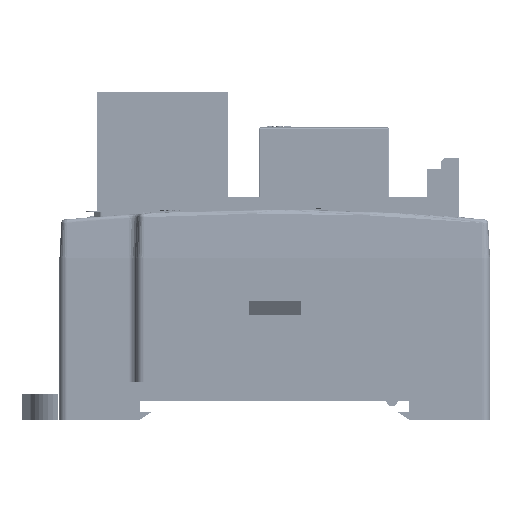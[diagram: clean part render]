
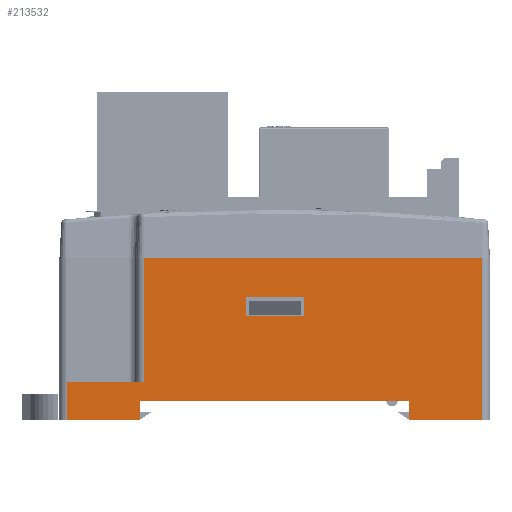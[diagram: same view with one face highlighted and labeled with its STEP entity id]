
A CAD part, front view. The second image highlights one B-rep face of the part: STEP entity #213532.
In plain terms, the highlighted planar face has unit normal (0, -1, 0).
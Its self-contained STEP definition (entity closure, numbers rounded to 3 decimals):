
#14111=DIRECTION('',(0.,0.,-1.));
#14112=VECTOR('',#14111,21.);
#14113=CARTESIAN_POINT('',(27.,-85.,0.));
#14114=LINE('',#14113,#14112);
#14171=DIRECTION('',(0.,0.,-1.));
#14172=VECTOR('',#14171,2.5);
#14173=CARTESIAN_POINT('',(17.5,-85.,-18.5));
#14174=LINE('',#14173,#14172);
#14766=DIRECTION('',(0.,0.,1.));
#14767=VECTOR('',#14766,16.1);
#14768=CARTESIAN_POINT('',(-17.,-85.,-16.1));
#14769=LINE('',#14768,#14767);
#14774=DIRECTION('',(1.,0.,0.));
#14775=VECTOR('',#14774,9.5);
#14776=CARTESIAN_POINT('',(17.5,-85.,-21.));
#14777=LINE('',#14776,#14775);
#14778=DIRECTION('',(1.,0.,0.));
#14779=VECTOR('',#14778,9.5);
#14780=CARTESIAN_POINT('',(-27.,-85.,-21.));
#14781=LINE('',#14780,#14779);
#14786=DIRECTION('',(0.,0.,1.));
#14787=VECTOR('',#14786,2.5);
#14788=CARTESIAN_POINT('',(-3.75,-85.,-7.5));
#14789=LINE('',#14788,#14787);
#14858=DIRECTION('',(1.,0.,0.));
#14859=VECTOR('',#14858,7.5);
#14860=CARTESIAN_POINT('',(-3.75,-85.,-5.));
#14861=LINE('',#14860,#14859);
#15007=DIRECTION('',(0.,0.,-1.));
#15008=VECTOR('',#15007,2.5);
#15009=CARTESIAN_POINT('',(3.75,-85.,-5.));
#15010=LINE('',#15009,#15008);
#15015=DIRECTION('',(-1.,0.,0.));
#15016=VECTOR('',#15015,7.5);
#15017=CARTESIAN_POINT('',(3.75,-85.,-7.5));
#15018=LINE('',#15017,#15016);
#15023=DIRECTION('',(-1.,0.,0.));
#15024=VECTOR('',#15023,35.);
#15025=CARTESIAN_POINT('',(17.5,-85.,-18.5));
#15026=LINE('',#15025,#15024);
#15031=DIRECTION('',(0.,0.,1.));
#15032=VECTOR('',#15031,2.5);
#15033=CARTESIAN_POINT('',(-17.5,-85.,-21.));
#15034=LINE('',#15033,#15032);
#81909=DIRECTION('',(1.,0.,0.));
#81910=VECTOR('',#81909,10.);
#81911=CARTESIAN_POINT('',(-27.,-85.,-16.1));
#81912=LINE('',#81911,#81910);
#81946=DIRECTION('',(0.,0.,1.));
#81947=VECTOR('',#81946,4.9);
#81948=CARTESIAN_POINT('',(-27.,-85.,-21.));
#81949=LINE('',#81948,#81947);
#82039=DIRECTION('',(1.,0.,0.));
#82040=VECTOR('',#82039,44.);
#82041=CARTESIAN_POINT('',(-17.,-85.,0.));
#82042=LINE('',#82041,#82040);
#187100=CARTESIAN_POINT('',(-17.5,-85.,-21.));
#187101=VERTEX_POINT('',#187100);
#187102=CARTESIAN_POINT('',(-27.,-85.,-21.));
#187103=VERTEX_POINT('',#187102);
#187130=CARTESIAN_POINT('',(27.,-85.,-21.));
#187131=VERTEX_POINT('',#187130);
#187132=CARTESIAN_POINT('',(17.5,-85.,-21.));
#187133=VERTEX_POINT('',#187132);
#187202=CARTESIAN_POINT('',(17.5,-85.,-18.5));
#187203=CARTESIAN_POINT('',(-17.5,-85.,-18.5));
#187204=VERTEX_POINT('',#187202);
#187205=VERTEX_POINT('',#187203);
#187206=CARTESIAN_POINT('',(-27.,-85.,-16.1));
#187207=VERTEX_POINT('',#187206);
#187208=CARTESIAN_POINT('',(-17.,-85.,-16.1));
#187209=VERTEX_POINT('',#187208);
#187210=CARTESIAN_POINT('',(-3.75,-85.,-7.5));
#187211=CARTESIAN_POINT('',(-3.75,-85.,-5.));
#187212=VERTEX_POINT('',#187210);
#187213=VERTEX_POINT('',#187211);
#187214=CARTESIAN_POINT('',(3.75,-85.,-7.5));
#187215=VERTEX_POINT('',#187214);
#187216=CARTESIAN_POINT('',(3.75,-85.,-5.));
#187217=VERTEX_POINT('',#187216);
#194425=CARTESIAN_POINT('',(-17.,-85.,0.));
#194426=CARTESIAN_POINT('',(27.,-85.,0.));
#194427=VERTEX_POINT('',#194425);
#194428=VERTEX_POINT('',#194426);
#213499=CARTESIAN_POINT('',(0.,-85.,-10.5));
#213500=DIRECTION('',(0.,1.,0.));
#213501=DIRECTION('',(1.,0.,0.));
#213502=AXIS2_PLACEMENT_3D('',#213499,#213500,#213501);
#213503=PLANE('',#213502);
#213504=ORIENTED_EDGE('',*,*,#212310,.T.);
#213505=ORIENTED_EDGE('',*,*,#212331,.F.);
#213506=ORIENTED_EDGE('',*,*,#212429,.F.);
#213508=ORIENTED_EDGE('',*,*,#213507,.T.);
#213510=ORIENTED_EDGE('',*,*,#213509,.F.);
#213512=ORIENTED_EDGE('',*,*,#213511,.F.);
#213514=ORIENTED_EDGE('',*,*,#213513,.T.);
#213516=ORIENTED_EDGE('',*,*,#213515,.T.);
#213517=ORIENTED_EDGE('',*,*,#213483,.T.);
#213519=ORIENTED_EDGE('',*,*,#213518,.T.);
#213520=EDGE_LOOP('',(#213504,#213505,#213506,#213508,#213510,#213512,#213514,
#213516,#213517,#213519));
#213521=FACE_OUTER_BOUND('',#213520,.F.);
#213523=ORIENTED_EDGE('',*,*,#213522,.F.);
#213525=ORIENTED_EDGE('',*,*,#213524,.F.);
#213527=ORIENTED_EDGE('',*,*,#213526,.F.);
#213529=ORIENTED_EDGE('',*,*,#213528,.F.);
#213530=EDGE_LOOP('',(#213523,#213525,#213527,#213529));
#213531=FACE_BOUND('',#213530,.F.);
#213532=ADVANCED_FACE('',(#213521,#213531),#213503,.F.);
#212310=EDGE_CURVE('',#194428,#187131,#14114,.T.);
#212331=EDGE_CURVE('',#187133,#187131,#14777,.T.);
#212429=EDGE_CURVE('',#187204,#187133,#14174,.T.);
#213483=EDGE_CURVE('',#187209,#194427,#14769,.T.);
#213507=EDGE_CURVE('',#187204,#187205,#15026,.T.);
#213509=EDGE_CURVE('',#187101,#187205,#15034,.T.);
#213511=EDGE_CURVE('',#187103,#187101,#14781,.T.);
#213513=EDGE_CURVE('',#187103,#187207,#81949,.T.);
#213515=EDGE_CURVE('',#187207,#187209,#81912,.T.);
#213518=EDGE_CURVE('',#194427,#194428,#82042,.T.);
#213522=EDGE_CURVE('',#187212,#187213,#14789,.T.);
#213524=EDGE_CURVE('',#187215,#187212,#15018,.T.);
#213526=EDGE_CURVE('',#187217,#187215,#15010,.T.);
#213528=EDGE_CURVE('',#187213,#187217,#14861,.T.);
